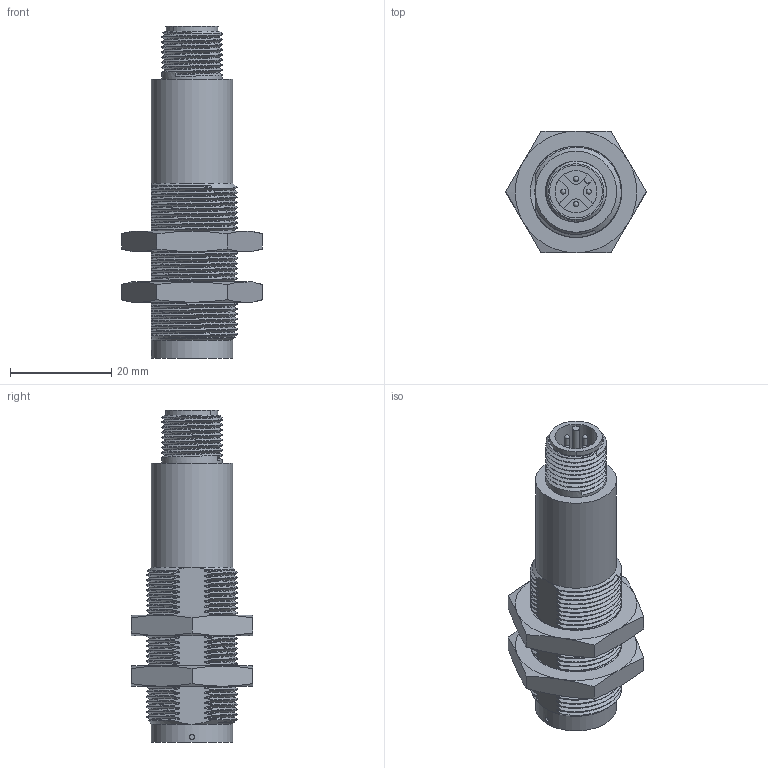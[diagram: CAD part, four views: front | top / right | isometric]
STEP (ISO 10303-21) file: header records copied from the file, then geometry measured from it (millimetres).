
FILE_DESCRIPTION(/* description */ ('Katalogmodell Elobau'),/* implementation_level */ '2;1');
FILE_NAME(/* name */ '120V62VY01_D.stp',/* time_stamp */ '2014-04-03T10:21:35+02:00',/* author */ ('Elobau GmbH & Co. KG'),/* organization */ ('Elobau GmbH & Co. KG'),/* preprocessor_version */ 'ST-DEVELOPER v15',/* originating_system */ 'SIEMENS PLM Software NX 8.5',/* authorisation */ '');
FILE_SCHEMA (('AUTOMOTIVE_DESIGN { 1 0 10303 214 3 1 1 1 }'));
Products named in the file (1): 120V62VY01_D
Bounding box: 27.71 x 24 x 65.5 mm (x, y, z)
Surface area: 6419.6 mm2
Topology: 1 solids, 2 shells, 213 faces, 608 edges, 394 vertices
Faces by surface type: cylinder 79, bspline 56, plane 43, cone 31, sphere 4
Full cylindrical faces by diameter (mm): 1 x1, 9.45 x1, 12 x1, 16 x2
Entity records: 132033 total; most frequent: CARTESIAN_POINT 125963, ORIENTED_EDGE 1120, DIRECTION 681, EDGE_CURVE 560, VERTEX_POINT 364, AXIS2_PLACEMENT_3D 256, B_SPLINE_CURVE_WITH_KNOTS 244, EDGE_LOOP 234
